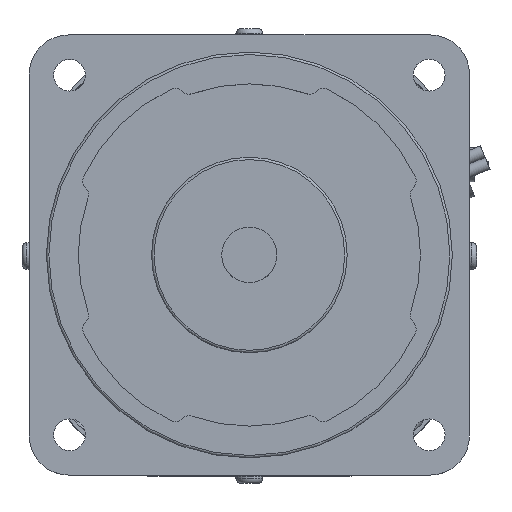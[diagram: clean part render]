
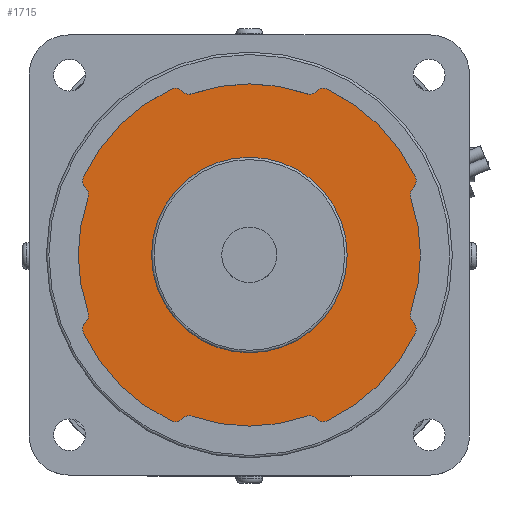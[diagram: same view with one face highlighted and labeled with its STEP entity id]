
A CAD part, top view. The second image highlights one B-rep face of the part: STEP entity #1715.
In plain terms, the highlighted planar face has unit normal (0, 0, 1).
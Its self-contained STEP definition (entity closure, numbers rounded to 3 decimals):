
#1474=CARTESIAN_POINT('',(20.0,0.,156.0));
#1475=VERTEX_POINT('',#1474);
#1476=CARTESIAN_POINT('',(0.,0.,156.0));
#1477=DIRECTION('',(0.0,0.0,-1.0));
#1478=DIRECTION('',(-1.0,0.0,0.0));
#1479=AXIS2_PLACEMENT_3D('',#1476,#1477,#1478);
#1480=CIRCLE('',#1479,20.0);
#1481=EDGE_CURVE('',#1475,#1475,#1480,.T.);
#1489=CARTESIAN_POINT('',(0.,0.,156.0));
#1490=DIRECTION('',(0.0,0.0,1.0));
#1491=DIRECTION('',(1.0,0.0,0.0));
#1492=AXIS2_PLACEMENT_3D('',#1489,#1490,#1491);
#1493=PLANE('',#1492);
#1494=CARTESIAN_POINT('',(-16.006,-33.913,156.0));
#1495=VERTEX_POINT('',#1494);
#1496=CARTESIAN_POINT('',(-13.722,-33.501,156.0));
#1497=VERTEX_POINT('',#1496);
#1498=CARTESIAN_POINT('',(-15.152,-32.104,156.0));
#1499=DIRECTION('',(0.0,0.0,1.0));
#1500=DIRECTION('',(0.427,0.904,0.0));
#1501=AXIS2_PLACEMENT_3D('',#1498,#1499,#1500);
#1502=CIRCLE('',#1501,2.);
#1503=EDGE_CURVE('',#1495,#1497,#1502,.T.);
#1504=ORIENTED_EDGE('',*,*,#1503,.T.);
#1505=CARTESIAN_POINT('',(-11.626,-33.013,156.0));
#1506=VERTEX_POINT('',#1505);
#1507=CARTESIAN_POINT('',(-12.291,-34.899,156.0));
#1508=DIRECTION('',(0.0,0.0,-1.0));
#1509=DIRECTION('',(-0.408,0.913,0.0));
#1510=AXIS2_PLACEMENT_3D('',#1507,#1508,#1509);
#1511=CIRCLE('',#1510,2.0);
#1512=EDGE_CURVE('',#1506,#1497,#1511,.F.);
#1513=ORIENTED_EDGE('',*,*,#1512,.F.);
#1514=CARTESIAN_POINT('',(11.626,-33.013,156.0));
#1515=VERTEX_POINT('',#1514);
#1516=CARTESIAN_POINT('',(0.,0.,156.));
#1517=DIRECTION('',(0.,0.,1.0));
#1518=DIRECTION('',(-0.383,-0.924,0.));
#1519=AXIS2_PLACEMENT_3D('',#1516,#1517,#1518);
#1520=CIRCLE('',#1519,35.0);
#1521=EDGE_CURVE('',#1506,#1515,#1520,.T.);
#1522=ORIENTED_EDGE('',*,*,#1521,.T.);
#1523=CARTESIAN_POINT('',(13.722,-33.501,156.0));
#1524=VERTEX_POINT('',#1523);
#1525=CARTESIAN_POINT('',(12.291,-34.899,156.0));
#1526=DIRECTION('',(0.0,0.0,-1.0));
#1527=DIRECTION('',(0.408,0.913,0.0));
#1528=AXIS2_PLACEMENT_3D('',#1525,#1526,#1527);
#1529=CIRCLE('',#1528,2.0);
#1530=EDGE_CURVE('',#1524,#1515,#1529,.F.);
#1531=ORIENTED_EDGE('',*,*,#1530,.F.);
#1532=CARTESIAN_POINT('',(16.006,-33.913,156.0));
#1533=VERTEX_POINT('',#1532);
#1534=CARTESIAN_POINT('',(15.152,-32.104,156.0));
#1535=DIRECTION('',(0.0,0.0,1.0));
#1536=DIRECTION('',(0.715,0.699,0.0));
#1537=AXIS2_PLACEMENT_3D('',#1534,#1535,#1536);
#1538=CIRCLE('',#1537,2.);
#1539=EDGE_CURVE('',#1524,#1533,#1538,.T.);
#1540=ORIENTED_EDGE('',*,*,#1539,.T.);
#1541=CARTESIAN_POINT('',(33.913,-16.006,156.0));
#1542=VERTEX_POINT('',#1541);
#1543=CARTESIAN_POINT('',(0.,0.,156.));
#1544=DIRECTION('',(0.,0.,1.0));
#1545=DIRECTION('',(0.383,-0.924,0.));
#1546=AXIS2_PLACEMENT_3D('',#1543,#1544,#1545);
#1547=CIRCLE('',#1546,37.5);
#1548=EDGE_CURVE('',#1533,#1542,#1547,.T.);
#1549=ORIENTED_EDGE('',*,*,#1548,.T.);
#1550=CARTESIAN_POINT('',(33.501,-13.722,156.0));
#1551=VERTEX_POINT('',#1550);
#1552=CARTESIAN_POINT('',(32.104,-15.152,156.0));
#1553=DIRECTION('',(0.0,0.0,1.0));
#1554=DIRECTION('',(-0.904,0.427,0.0));
#1555=AXIS2_PLACEMENT_3D('',#1552,#1553,#1554);
#1556=CIRCLE('',#1555,2.);
#1557=EDGE_CURVE('',#1542,#1551,#1556,.T.);
#1558=ORIENTED_EDGE('',*,*,#1557,.T.);
#1559=CARTESIAN_POINT('',(33.013,-11.626,156.0));
#1560=VERTEX_POINT('',#1559);
#1561=CARTESIAN_POINT('',(34.899,-12.291,156.0));
#1562=DIRECTION('',(0.0,0.0,-1.0));
#1563=DIRECTION('',(-0.913,-0.408,0.0));
#1564=AXIS2_PLACEMENT_3D('',#1561,#1562,#1563);
#1565=CIRCLE('',#1564,2.0);
#1566=EDGE_CURVE('',#1560,#1551,#1565,.F.);
#1567=ORIENTED_EDGE('',*,*,#1566,.F.);
#1568=CARTESIAN_POINT('',(33.013,11.626,156.0));
#1569=VERTEX_POINT('',#1568);
#1570=CARTESIAN_POINT('',(0.,0.,156.));
#1571=DIRECTION('',(0.,0.,1.0));
#1572=DIRECTION('',(0.924,-0.383,0.));
#1573=AXIS2_PLACEMENT_3D('',#1570,#1571,#1572);
#1574=CIRCLE('',#1573,35.);
#1575=EDGE_CURVE('',#1560,#1569,#1574,.T.);
#1576=ORIENTED_EDGE('',*,*,#1575,.T.);
#1577=CARTESIAN_POINT('',(33.501,13.722,156.0));
#1578=VERTEX_POINT('',#1577);
#1579=CARTESIAN_POINT('',(34.899,12.291,156.0));
#1580=DIRECTION('',(0.0,0.0,-1.0));
#1581=DIRECTION('',(-0.913,0.408,0.0));
#1582=AXIS2_PLACEMENT_3D('',#1579,#1580,#1581);
#1583=CIRCLE('',#1582,2.0);
#1584=EDGE_CURVE('',#1578,#1569,#1583,.F.);
#1585=ORIENTED_EDGE('',*,*,#1584,.F.);
#1586=CARTESIAN_POINT('',(33.913,16.006,156.0));
#1587=VERTEX_POINT('',#1586);
#1588=CARTESIAN_POINT('',(32.104,15.152,156.0));
#1589=DIRECTION('',(0.0,0.0,1.0));
#1590=DIRECTION('',(-0.699,0.715,0.0));
#1591=AXIS2_PLACEMENT_3D('',#1588,#1589,#1590);
#1592=CIRCLE('',#1591,2.);
#1593=EDGE_CURVE('',#1578,#1587,#1592,.T.);
#1594=ORIENTED_EDGE('',*,*,#1593,.T.);
#1595=CARTESIAN_POINT('',(16.006,33.913,156.0));
#1596=VERTEX_POINT('',#1595);
#1597=CARTESIAN_POINT('',(0.,0.,156.));
#1598=DIRECTION('',(0.,0.,1.0));
#1599=DIRECTION('',(0.924,0.383,0.));
#1600=AXIS2_PLACEMENT_3D('',#1597,#1598,#1599);
#1601=CIRCLE('',#1600,37.5);
#1602=EDGE_CURVE('',#1587,#1596,#1601,.T.);
#1603=ORIENTED_EDGE('',*,*,#1602,.T.);
#1604=CARTESIAN_POINT('',(13.722,33.501,156.0));
#1605=VERTEX_POINT('',#1604);
#1606=CARTESIAN_POINT('',(15.152,32.104,156.0));
#1607=DIRECTION('',(0.0,0.0,1.0));
#1608=DIRECTION('',(-0.427,-0.904,0.0));
#1609=AXIS2_PLACEMENT_3D('',#1606,#1607,#1608);
#1610=CIRCLE('',#1609,2.);
#1611=EDGE_CURVE('',#1596,#1605,#1610,.T.);
#1612=ORIENTED_EDGE('',*,*,#1611,.T.);
#1613=CARTESIAN_POINT('',(11.626,33.013,156.0));
#1614=VERTEX_POINT('',#1613);
#1615=CARTESIAN_POINT('',(12.291,34.899,156.0));
#1616=DIRECTION('',(0.0,0.0,-1.0));
#1617=DIRECTION('',(0.408,-0.913,0.0));
#1618=AXIS2_PLACEMENT_3D('',#1615,#1616,#1617);
#1619=CIRCLE('',#1618,2.0);
#1620=EDGE_CURVE('',#1614,#1605,#1619,.F.);
#1621=ORIENTED_EDGE('',*,*,#1620,.F.);
#1622=CARTESIAN_POINT('',(-11.626,33.013,156.0));
#1623=VERTEX_POINT('',#1622);
#1624=CARTESIAN_POINT('',(0.,0.,156.));
#1625=DIRECTION('',(0.,0.,1.0));
#1626=DIRECTION('',(0.383,0.924,0.));
#1627=AXIS2_PLACEMENT_3D('',#1624,#1625,#1626);
#1628=CIRCLE('',#1627,35.0);
#1629=EDGE_CURVE('',#1614,#1623,#1628,.T.);
#1630=ORIENTED_EDGE('',*,*,#1629,.T.);
#1631=CARTESIAN_POINT('',(-13.722,33.501,156.0));
#1632=VERTEX_POINT('',#1631);
#1633=CARTESIAN_POINT('',(-12.291,34.899,156.0));
#1634=DIRECTION('',(0.0,0.0,-1.0));
#1635=DIRECTION('',(-0.408,-0.913,0.0));
#1636=AXIS2_PLACEMENT_3D('',#1633,#1634,#1635);
#1637=CIRCLE('',#1636,2.0);
#1638=EDGE_CURVE('',#1632,#1623,#1637,.F.);
#1639=ORIENTED_EDGE('',*,*,#1638,.F.);
#1640=CARTESIAN_POINT('',(-16.006,33.913,156.0));
#1641=VERTEX_POINT('',#1640);
#1642=CARTESIAN_POINT('',(-15.152,32.104,156.0));
#1643=DIRECTION('',(0.0,0.0,1.0));
#1644=DIRECTION('',(-0.715,-0.699,0.0));
#1645=AXIS2_PLACEMENT_3D('',#1642,#1643,#1644);
#1646=CIRCLE('',#1645,2.);
#1647=EDGE_CURVE('',#1632,#1641,#1646,.T.);
#1648=ORIENTED_EDGE('',*,*,#1647,.T.);
#1649=CARTESIAN_POINT('',(-33.913,16.006,156.0));
#1650=VERTEX_POINT('',#1649);
#1651=CARTESIAN_POINT('',(0.,0.,156.));
#1652=DIRECTION('',(0.,0.,1.0));
#1653=DIRECTION('',(-0.383,0.924,0.));
#1654=AXIS2_PLACEMENT_3D('',#1651,#1652,#1653);
#1655=CIRCLE('',#1654,37.5);
#1656=EDGE_CURVE('',#1641,#1650,#1655,.T.);
#1657=ORIENTED_EDGE('',*,*,#1656,.T.);
#1658=CARTESIAN_POINT('',(-33.501,13.722,156.0));
#1659=VERTEX_POINT('',#1658);
#1660=CARTESIAN_POINT('',(-32.104,15.152,156.0));
#1661=DIRECTION('',(0.0,0.0,1.0));
#1662=DIRECTION('',(0.904,-0.427,0.0));
#1663=AXIS2_PLACEMENT_3D('',#1660,#1661,#1662);
#1664=CIRCLE('',#1663,2.);
#1665=EDGE_CURVE('',#1650,#1659,#1664,.T.);
#1666=ORIENTED_EDGE('',*,*,#1665,.T.);
#1667=CARTESIAN_POINT('',(-33.013,11.626,156.0));
#1668=VERTEX_POINT('',#1667);
#1669=CARTESIAN_POINT('',(-34.899,12.291,156.0));
#1670=DIRECTION('',(0.0,0.0,-1.0));
#1671=DIRECTION('',(0.913,0.408,0.0));
#1672=AXIS2_PLACEMENT_3D('',#1669,#1670,#1671);
#1673=CIRCLE('',#1672,2.0);
#1674=EDGE_CURVE('',#1668,#1659,#1673,.F.);
#1675=ORIENTED_EDGE('',*,*,#1674,.F.);
#1676=CARTESIAN_POINT('',(-33.013,-11.626,156.0));
#1677=VERTEX_POINT('',#1676);
#1678=CARTESIAN_POINT('',(0.,0.,156.));
#1679=DIRECTION('',(0.,0.,1.0));
#1680=DIRECTION('',(-0.924,0.383,0.));
#1681=AXIS2_PLACEMENT_3D('',#1678,#1679,#1680);
#1682=CIRCLE('',#1681,35.0);
#1683=EDGE_CURVE('',#1668,#1677,#1682,.T.);
#1684=ORIENTED_EDGE('',*,*,#1683,.T.);
#1685=CARTESIAN_POINT('',(-33.501,-13.722,156.0));
#1686=VERTEX_POINT('',#1685);
#1687=CARTESIAN_POINT('',(-34.899,-12.291,156.0));
#1688=DIRECTION('',(0.0,0.0,-1.0));
#1689=DIRECTION('',(0.913,-0.408,0.0));
#1690=AXIS2_PLACEMENT_3D('',#1687,#1688,#1689);
#1691=CIRCLE('',#1690,2.0);
#1692=EDGE_CURVE('',#1686,#1677,#1691,.F.);
#1693=ORIENTED_EDGE('',*,*,#1692,.F.);
#1694=CARTESIAN_POINT('',(-33.913,-16.006,156.0));
#1695=VERTEX_POINT('',#1694);
#1696=CARTESIAN_POINT('',(-32.104,-15.152,156.0));
#1697=DIRECTION('',(0.0,0.0,1.0));
#1698=DIRECTION('',(0.699,-0.715,0.0));
#1699=AXIS2_PLACEMENT_3D('',#1696,#1697,#1698);
#1700=CIRCLE('',#1699,2.);
#1701=EDGE_CURVE('',#1686,#1695,#1700,.T.);
#1702=ORIENTED_EDGE('',*,*,#1701,.T.);
#1703=CARTESIAN_POINT('',(0.,0.,156.));
#1704=DIRECTION('',(0.,0.,1.0));
#1705=DIRECTION('',(-0.924,-0.383,0.));
#1706=AXIS2_PLACEMENT_3D('',#1703,#1704,#1705);
#1707=CIRCLE('',#1706,37.5);
#1708=EDGE_CURVE('',#1695,#1495,#1707,.T.);
#1709=ORIENTED_EDGE('',*,*,#1708,.T.);
#1710=EDGE_LOOP('',(#1504,#1513,#1522,#1531,#1540,#1549,#1558,#1567,#1576,#1585,#1594,#1603,#1612,#1621,#1630,#1639,#1648,#1657,#1666,#1675,#1684,#1693,#1702,#1709));
#1711=FACE_OUTER_BOUND('',#1710,.T.);
#1712=ORIENTED_EDGE('',*,*,#1481,.T.);
#1713=EDGE_LOOP('',(#1712));
#1714=FACE_BOUND('',#1713,.T.);
#1715=ADVANCED_FACE('',(#1711,#1714),#1493,.T.);
